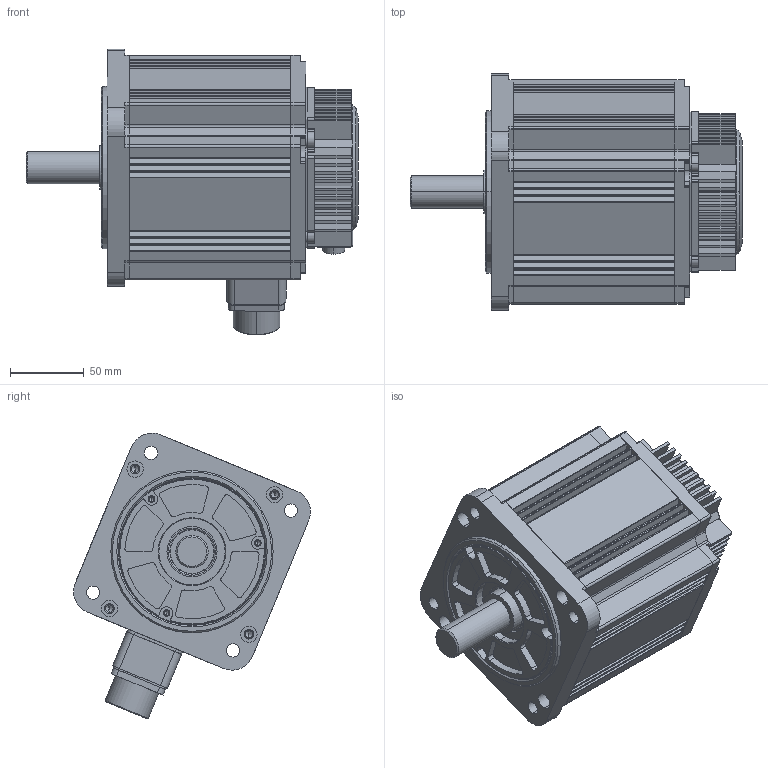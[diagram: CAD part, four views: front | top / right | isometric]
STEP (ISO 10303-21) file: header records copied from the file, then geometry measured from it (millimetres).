
FILE_DESCRIPTION (( 'STEP AP203' ), '1' );
FILE_NAME ('UMM-0015EA-B2_UMM-0015CA-B2.STEP', '2019-04-18T04:47:47', ( '' ), ( '' ), 'SwSTEP 2.0', 'SolidWorks 2017', '' );
FILE_SCHEMA (( 'CONFIG_CONTROL_DESIGN' ));
Length unit declared in the file: millimetre
Products named in the file (1): UMM-0015EA-B2_UMM-0015CA-B2
Bounding box: 225 x 160.58 x 193.61 mm (x, y, z)
Volume: 995689.1 mm3; surface area: 348901.3 mm2
Topology: 12 solids, 12 shells, 1449 faces, 4078 edges, 2616 vertices
Faces by surface type: cylinder 668, plane 505, bspline 161, cone 114, torus 1
Entity records: 54538 total; most frequent: CARTESIAN_POINT 17352, ORIENTED_EDGE 7936, DIRECTION 7811, EDGE_CURVE 3968, AXIS2_PLACEMENT_3D 2968, VERTEX_POINT 2616, VECTOR 1875, LINE 1875
